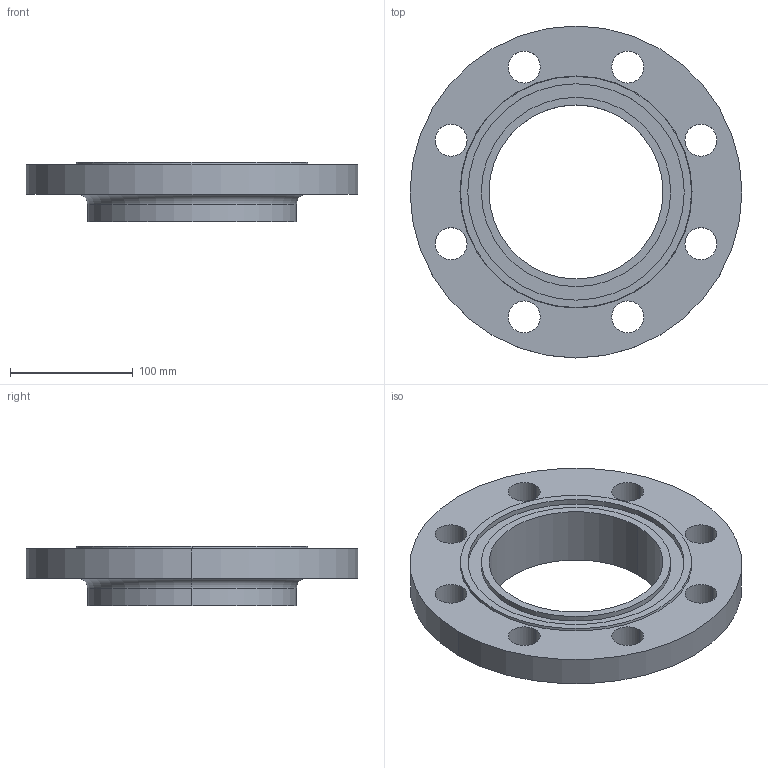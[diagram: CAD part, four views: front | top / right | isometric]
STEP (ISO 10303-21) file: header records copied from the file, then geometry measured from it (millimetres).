
FILE_DESCRIPTION (( 'STEP AP214' ), '1' );
FILE_NAME ('PN40 DN125 Type 12 - Type D Face.STEP', '2019-01-02T02:11:55', ( '' ), ( '' ), 'SwSTEP 2.0', 'SolidWorks 2019', '' );
FILE_SCHEMA (( 'AUTOMOTIVE_DESIGN' ));
Length unit declared in the file: millimetre
Products named in the file (1): PN40 DN125 Type 12 - Type D Face
Bounding box: 270 x 270 x 48 mm (x, y, z)
Volume: 1054286.6 mm3; surface area: 147545.9 mm2
Topology: 1 solids, 1 shells, 36 faces, 88 edges, 58 vertices
Faces by surface type: cylinder 26, plane 6, torus 2, cone 2
Entity records: 1166 total; most frequent: DIRECTION 222, CARTESIAN_POINT 183, ORIENTED_EDGE 176, AXIS2_PLACEMENT_3D 97, EDGE_CURVE 88, CIRCLE 60, EDGE_LOOP 58, VERTEX_POINT 58
